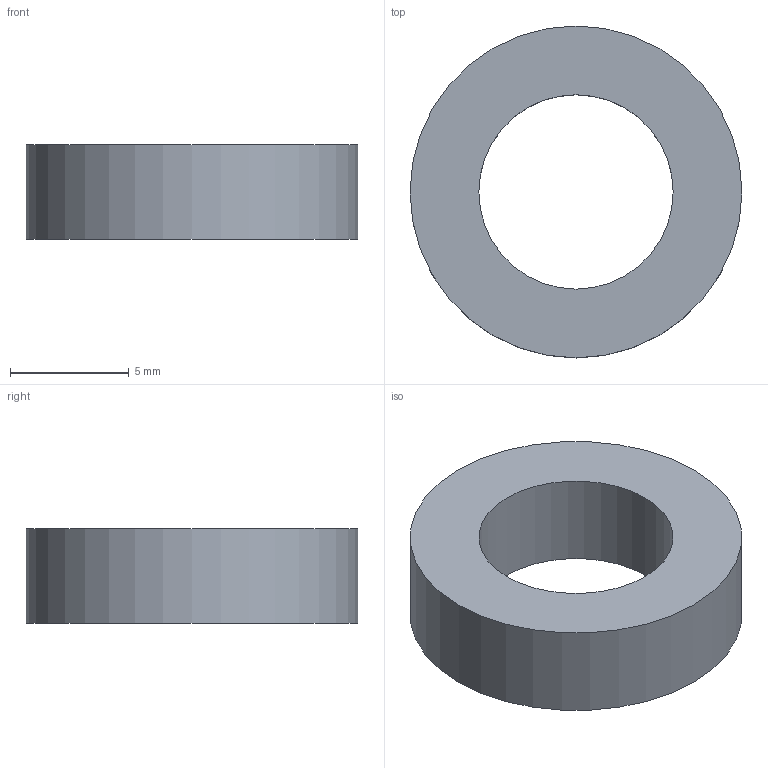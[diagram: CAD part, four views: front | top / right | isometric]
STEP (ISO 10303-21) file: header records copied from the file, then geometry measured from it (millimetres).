
FILE_DESCRIPTION(('Open CASCADE Model'),'2;1');
FILE_NAME('Open CASCADE Shape Model','2026-10-04T01:02:33',('Author'),( 'Open CASCADE'),'Open CASCADE STEP processor 8.0','Open CASCADE 8.0' ,'Unknown');
FILE_SCHEMA(('AUTOMOTIVE_DESIGN { 1 0 10303 214 1 1 1 1 }'));
Length unit declared in the file: millimetre
Products named in the file (1): Open CASCADE STEP translator 8.0 356
Bounding box: 14 x 14 x 4 mm (x, y, z)
Volume: 404.5 mm3; surface area: 481.2 mm2
Topology: 1 solids, 1 shells, 4 faces, 6 edges, 4 vertices
Faces by surface type: cylinder 2, plane 2
Full cylindrical faces by diameter (mm): 8.2 x1, 14 x1
Entity records: 186 total; most frequent: DIRECTION 32, CARTESIAN_POINT 27, ORIENTED_EDGE 12, PCURVE 12, DEFINITIONAL_REPRESENTATION 12, LINE 10, VECTOR 10, AXIS2_PLACEMENT_3D 9
